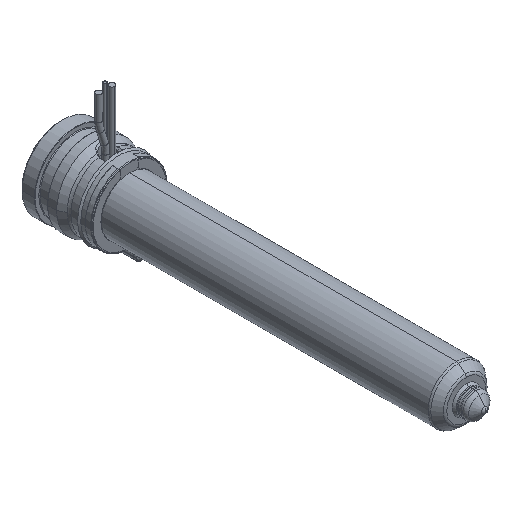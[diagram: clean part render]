
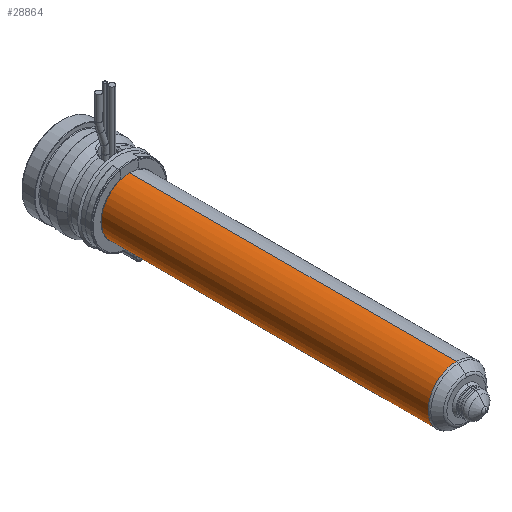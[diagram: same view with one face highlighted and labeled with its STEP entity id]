
A CAD part, isometric view. The second image highlights one B-rep face of the part: STEP entity #28864.
In plain terms, the highlighted cylindrical face has radius 9 mm (diameter 18 mm), a partial arc.
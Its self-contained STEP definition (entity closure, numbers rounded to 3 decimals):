
#28317=CARTESIAN_POINT('',(0.,-125.836,0.));
#28318=DIRECTION('',(0.,-1.,0.));
#28319=DIRECTION('',(0.,0.,1.));
#28320=AXIS2_PLACEMENT_3D('',#28317,#28318,#28319);
#28325=CARTESIAN_POINT('',(0.,-22.,0.));
#28326=DIRECTION('',(0.,-1.,0.));
#28327=DIRECTION('',(0.,0.,1.));
#28328=AXIS2_PLACEMENT_3D('',#28325,#28326,#28327);
#28333=DIRECTION('',(0.,-1.,0.));
#28334=VECTOR('',#28333,103.836);
#28335=CARTESIAN_POINT('',(0.,-22.,9.));
#28336=LINE('',#28335,#28334);
#28348=DIRECTION('',(0.,-1.,0.));
#28349=VECTOR('',#28348,103.836);
#28350=CARTESIAN_POINT('',(0.,-22.,-9.));
#28351=LINE('',#28350,#28349);
#28545=CARTESIAN_POINT('',(0.,-22.,9.));
#28546=CARTESIAN_POINT('',(0.,-125.836,9.));
#28547=VERTEX_POINT('',#28545);
#28548=VERTEX_POINT('',#28546);
#28567=CARTESIAN_POINT('',(0.,-22.,-9.));
#28568=CARTESIAN_POINT('',(0.,-125.836,-9.));
#28569=VERTEX_POINT('',#28567);
#28570=VERTEX_POINT('',#28568);
#28850=CARTESIAN_POINT('',(0.,-12.125,0.));
#28851=DIRECTION('',(0.,-1.,0.));
#28852=DIRECTION('',(0.,0.,1.));
#28853=AXIS2_PLACEMENT_3D('',#28850,#28851,#28852);
#28854=CYLINDRICAL_SURFACE('',#28853,9.);
#28856=ORIENTED_EDGE('',*,*,#28855,.T.);
#28857=ORIENTED_EDGE('',*,*,#28845,.T.);
#28859=ORIENTED_EDGE('',*,*,#28858,.F.);
#28861=ORIENTED_EDGE('',*,*,#28860,.F.);
#28862=EDGE_LOOP('',(#28856,#28857,#28859,#28861));
#28863=FACE_OUTER_BOUND('',#28862,.F.);
#28864=ADVANCED_FACE('',(#28863),#28854,.T.);
#28321=CIRCLE('',#28320,9.);
#28329=CIRCLE('',#28328,9.);
#28845=EDGE_CURVE('',#28548,#28570,#28321,.T.);
#28855=EDGE_CURVE('',#28547,#28548,#28336,.T.);
#28858=EDGE_CURVE('',#28569,#28570,#28351,.T.);
#28860=EDGE_CURVE('',#28547,#28569,#28329,.T.);
